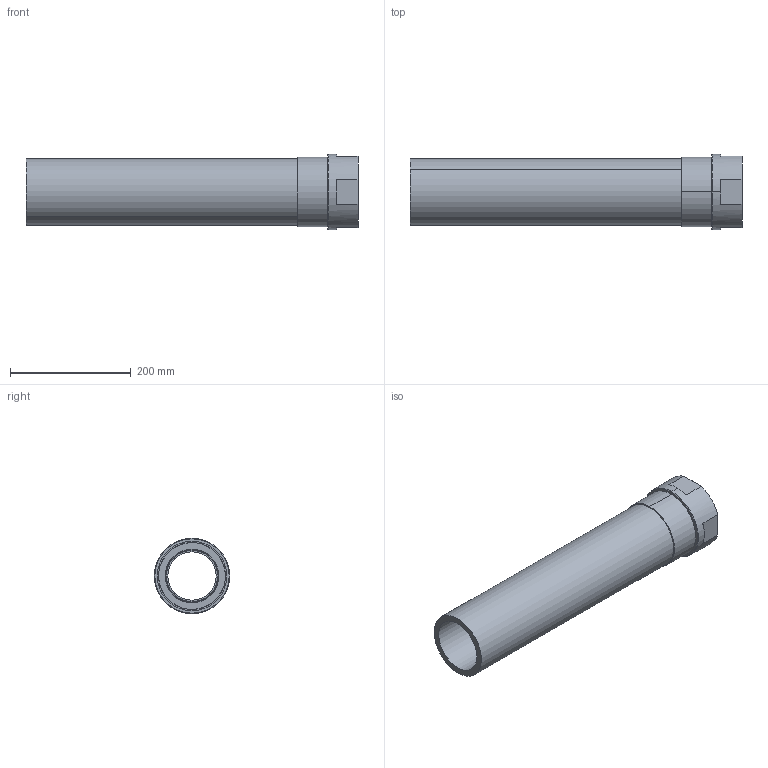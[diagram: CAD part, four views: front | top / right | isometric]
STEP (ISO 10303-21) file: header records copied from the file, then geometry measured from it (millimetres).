
FILE_DESCRIPTION (( 'STEP AP214' ), '1' );
FILE_NAME ('KP_C17-110FL.step', '2012-09-03T10:40:17', ( 'robinj' ), ( 'Microsoft' ), 'SwSTEP 2.0', 'SolidWorks 2012', '' );
FILE_SCHEMA (( 'AUTOMOTIVE_DESIGN' ));
Length unit declared in the file: millimetre
Products named in the file (1): KP_C17-110FL
Bounding box: 550 x 125 x 125 mm (x, y, z)
Volume: 1909524.8 mm3; surface area: 431720 mm2
Topology: 3 solids, 3 shells, 60 faces, 128 edges, 78 vertices
Faces by surface type: cylinder 20, plane 18, cone 16, torus 6
Entity records: 2356 total; most frequent: DIRECTION 326, CARTESIAN_POINT 267, ORIENTED_EDGE 256, AXIS2_PLACEMENT_3D 137, EDGE_CURVE 128, VERTEX_POINT 78, CIRCLE 76, EDGE_LOOP 70
